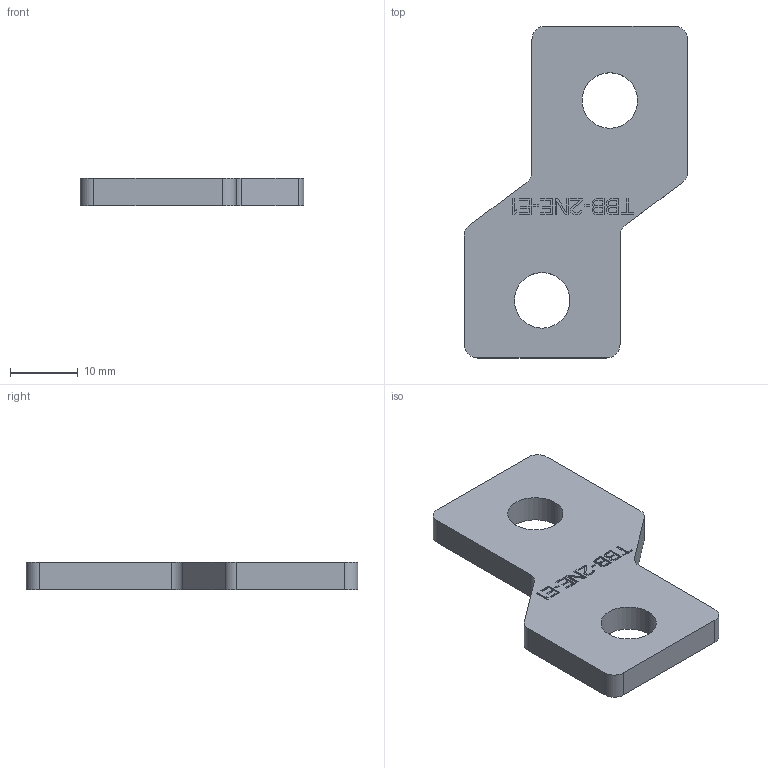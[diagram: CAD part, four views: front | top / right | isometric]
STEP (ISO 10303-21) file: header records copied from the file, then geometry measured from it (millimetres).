
FILE_DESCRIPTION((''),'2;1');
FILE_NAME('U2_BUSBAR_TBB-2NE-E1','2018-06-04T',('HHI'),(''),'PRO/ENGINEER BY PARAMETRIC TECHNOLOGY CORPORATION, 2012453','PRO/ENGINEER BY PARAMETRIC TECHNOLOGY CORPORATION, 2012453','');
FILE_SCHEMA(('CONFIG_CONTROL_DESIGN'));
Length unit declared in the file: millimetre
Products named in the file (1): U2_BUSBAR_TBB-2NE-E1
Bounding box: 33 x 49 x 4 mm (x, y, z)
Volume: 4069 mm3; surface area: 2862.1 mm2
Topology: 1 solids, 1 shells, 199 faces, 549 edges, 366 vertices
Faces by surface type: plane 187, cylinder 12
Entity records: 6273 total; most frequent: CARTESIAN_POINT 1114, ORIENTED_EDGE 1098, DIRECTION 971, EDGE_CURVE 549, VECTOR 525, LINE 525, VERTEX_POINT 366, AXIS2_PLACEMENT_3D 223
